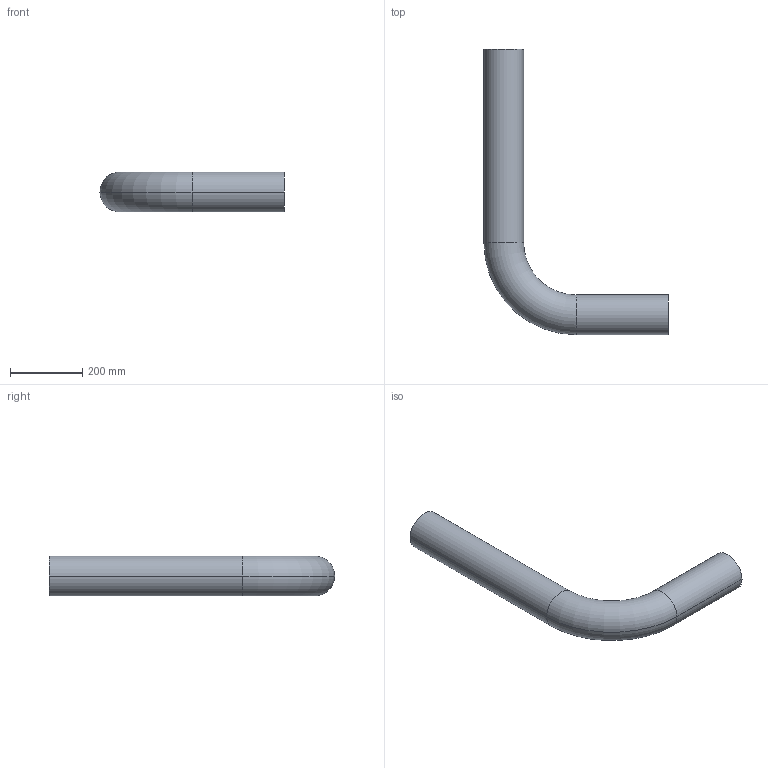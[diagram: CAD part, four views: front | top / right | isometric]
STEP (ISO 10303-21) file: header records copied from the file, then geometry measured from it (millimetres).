
FILE_DESCRIPTION (( 'STEP AP214' ), '1' );
FILE_NAME ('KP_3-110FCL.step', '2012-12-14T08:54:17', ( '' ), ( '' ), 'SwSTEP 2.0', 'SolidWorks 2012', '' );
FILE_SCHEMA (( 'AUTOMOTIVE_DESIGN' ));
Length unit declared in the file: millimetre
Products named in the file (1): KP_3-110FCL
Bounding box: 510 x 790 x 110 mm (x, y, z)
Volume: 3624048.3 mm3; surface area: 696859.3 mm2
Topology: 1 solids, 1 shells, 14 faces, 28 edges, 16 vertices
Faces by surface type: cylinder 8, torus 4, plane 2
Entity records: 406 total; most frequent: DIRECTION 78, CARTESIAN_POINT 59, ORIENTED_EDGE 56, AXIS2_PLACEMENT_3D 35, EDGE_CURVE 28, CIRCLE 20, EDGE_LOOP 16, VERTEX_POINT 16
